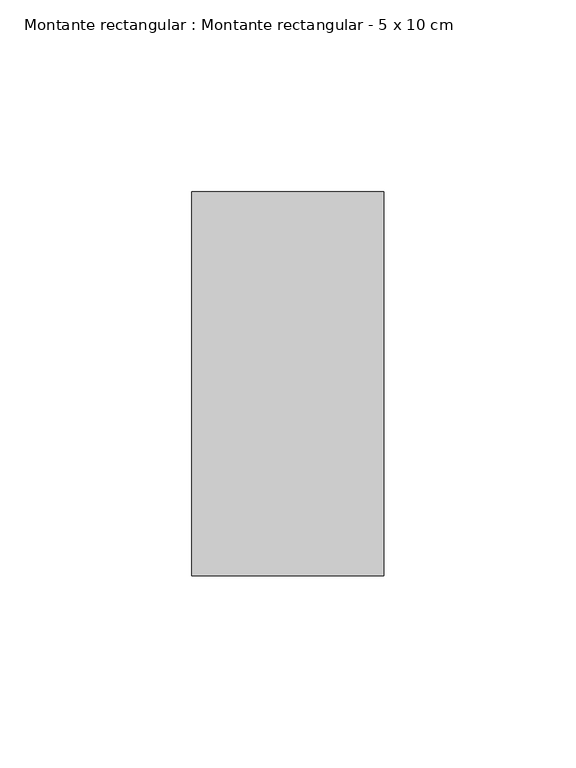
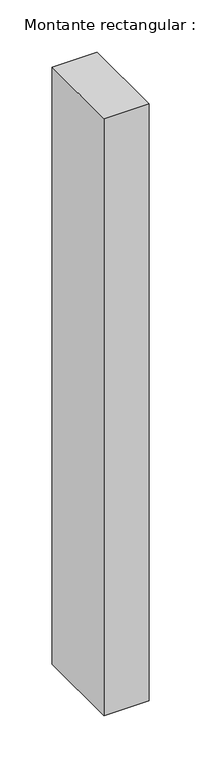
"""IFC4 building model written with IfcOpenShell, lengths in millimetres: member geometry, Montante rectangular : Montante rectangular - 5 x 10 cm."""

import ifcopenshell
import ifcopenshell.guid

model = None  # the IFC model being written
_history = None  # IfcOwnerHistory: only IFC2X3 demands one
_inside = {}  # id of a spatial element -> (the spatial element, [elements in it])
_under = {}  # id of a project, library or spatial element -> (it, [spatial elements below it])
_declared = {}  # id of a project -> (the project, [libraries it declares])
_typed = {}  # id of a type object -> (the type object, [elements of that type])
_made_of = {}  # id of a material, layer set ... -> (it, [elements and type objects made of it])


def new_model(schema):
    """Start an empty IFC model of exactly this schema.

    Asked for "IFC4X3", IfcOpenShell would pick the latest addendum, in which some entities
    have other attributes; the version numbers below select the first issue.
    IFC2X3 requires an IfcOwnerHistory on every rooted entity: one is made here for all.
    """
    global model, _history
    if schema == "IFC4X3":
        model = ifcopenshell.file(schema_version=(4, 3, 0, 0))
    else:
        model = ifcopenshell.file(schema=schema)
    _inside.clear()
    _under.clear()
    _declared.clear()
    _typed.clear()
    _made_of.clear()
    _history = None
    if model.schema == "IFC2X3":
        org = make("IfcOrganization", Name="unknown")
        user = make(
            "IfcPersonAndOrganization",
            ThePerson=make("IfcPerson", FamilyName="unknown"),
            TheOrganization=org,
        )
        app = make(
            "IfcApplication",
            ApplicationDeveloper=org,
            Version="unknown",
            ApplicationFullName="unknown",
            ApplicationIdentifier="unknown",
        )
        _history = make(
            "IfcOwnerHistory",
            OwningUser=user,
            OwningApplication=app,
            ChangeAction="ADDED",
            CreationDate=0,
        )
    return model


def make(cls, **values):
    """One entity of the class cls with the attributes given. An attribute that is None is left unset."""
    return model.create_entity(
        cls, **{name: value for name, value in values.items() if value is not None}
    )


def rooted(cls, **values):
    """An entity with a GlobalId (a new one), such as an element, a storey or a relation."""
    return make(cls, GlobalId=ifcopenshell.guid.new(), OwnerHistory=_history, **values)


def si_unit(unit_type, name, prefix=None):
    """IfcSIUnit, for example si_unit("LENGTHUNIT", "METRE", prefix="MILLI")."""
    return make("IfcSIUnit", UnitType=unit_type, Prefix=prefix, Name=name)


def assignment(units):
    """IfcUnitAssignment: the units of a project."""
    return None if units is None else make("IfcUnitAssignment", Units=units)


def point(xyz):
    """IfcCartesianPoint."""
    return None if xyz is None else make("IfcCartesianPoint", Coordinates=xyz)


def direction(xyz):
    """IfcDirection."""
    return None if xyz is None else make("IfcDirection", DirectionRatios=xyz)


def frame(location, z_axis=None, x_axis=None):
    """IfcAxis2Placement3D, a coordinate frame: its origin and axes. An axis left out is left unset."""
    return make(
        "IfcAxis2Placement3D",
        Location=point(location),
        Axis=direction(z_axis),
        RefDirection=direction(x_axis),
    )


def origin():
    """The frame at (0, 0, 0) with its axes left unset."""
    return frame((0.0, 0.0, 0.0))


def place(relative_to, where):
    """IfcLocalPlacement: puts the frame where relative to a parent placement (None: the world)."""
    return make(
        "IfcLocalPlacement", PlacementRelTo=relative_to, RelativePlacement=where
    )


def context(
    kind, dimensions, precision=None, world=None, true_north=None, identifier=None
):
    """IfcGeometricRepresentationContext, for example the 3D "Model" context."""
    return make(
        "IfcGeometricRepresentationContext",
        ContextIdentifier=identifier,
        ContextType=kind,
        CoordinateSpaceDimension=dimensions,
        Precision=precision,
        WorldCoordinateSystem=world,
        TrueNorth=true_north,
    )


def project(units=None, contexts=None):
    """IfcProject with its units and contexts."""
    return rooted(
        "IfcProject",
        Name="project",
        RepresentationContexts=contexts,
        UnitsInContext=assignment(units),
    )


def spatial(cls, under=None, at=None, **own):
    """A site, building, storey or space (cls), placed at a placement, below another one or the project."""
    s = rooted(cls, ObjectPlacement=at, **own)
    if under is not None:
        _under.setdefault(under.id(), (under, []))[1].append(s)
    return s


def polyline(points):
    """IfcPolyline through the points."""
    return make("IfcPolyline", Points=[point(p) for p in points])


def outline(outer, holes=None, kind="AREA"):
    """IfcArbitraryClosedProfileDef: a profile drawn as a closed curve; with holes, ...WithVoids."""
    if holes is None:
        return make("IfcArbitraryClosedProfileDef", ProfileType=kind, OuterCurve=outer)
    return make(
        "IfcArbitraryProfileDefWithVoids",
        ProfileType=kind,
        OuterCurve=outer,
        InnerCurves=holes,
    )


def extrude(swept, where, along, depth):
    """IfcExtrudedAreaSolid: the profile swept, set in the frame where, extruded along a direction by depth."""
    return make(
        "IfcExtrudedAreaSolid",
        SweptArea=swept,
        Position=where,
        ExtrudedDirection=direction(along),
        Depth=depth,
    )


def shape(context_of_items, identifier, shape_type, items):
    """IfcShapeRepresentation: the items that make up one representation, for example the "Body"."""
    return make(
        "IfcShapeRepresentation",
        ContextOfItems=context_of_items,
        RepresentationIdentifier=identifier,
        RepresentationType=shape_type,
        Items=items,
    )


def source(mapping_origin, context_of_items, identifier, shape_type, items):
    """IfcRepresentationMap: a shape defined once, which mapped items show again and again."""
    return make(
        "IfcRepresentationMap",
        MappingOrigin=mapping_origin,
        MappedRepresentation=shape(context_of_items, identifier, shape_type, items),
    )


def transform(
    local_origin,
    x_axis=None,
    y_axis=None,
    z_axis=None,
    scale=None,
    scale2=None,
    scale3=None,
    uniform=True,
):
    """IfcCartesianTransformationOperator3D, or its non-uniform kind. x_axis, y_axis, z_axis: its Axis1, 2, 3."""
    if uniform:
        return make(
            "IfcCartesianTransformationOperator3D",
            Axis1=direction(x_axis),
            Axis2=direction(y_axis),
            LocalOrigin=point(local_origin),
            Scale=scale,
            Axis3=direction(z_axis),
        )
    return make(
        "IfcCartesianTransformationOperator3DnonUniform",
        Axis1=direction(x_axis),
        Axis2=direction(y_axis),
        LocalOrigin=point(local_origin),
        Scale=scale,
        Axis3=direction(z_axis),
        Scale2=scale2,
        Scale3=scale3,
    )


def mapped(mapping_source, mapping_target):
    """IfcMappedItem: shows the shape of a source again, moved by a transform."""
    return make(
        "IfcMappedItem", MappingSource=mapping_source, MappingTarget=mapping_target
    )


def made_of(thing, what):
    """Note that an element or type object is made of a material, layer set ...; save() writes the relation."""
    if what is not None:
        _made_of.setdefault(what.id(), (what, []))[1].append(thing)
    return thing


def element(
    cls,
    number,
    at=None,
    inside=None,
    cuts=None,
    type_object=None,
    material=None,
    context=None,
    identifier="Body",
    shape_type=None,
    held_by="IfcProductDefinitionShape",
    body=None,
    shapes=None,
    **own,
):
    """One element of the class cls, such as IfcWall. Its Tag is "e" and its number.

    at: its placement. inside: the storey or other place that contains it. cuts: it is an
    opening in that element (IfcRelVoidsElement). A single representation is given by context,
    identifier, shape_type and body (its items); several are given by shapes. held_by: the class
    of the entity that holds the representations. save() writes the other relations.
    """
    e = rooted(cls, Tag="e%d" % number, ObjectPlacement=at, **own)
    if body is not None:
        shapes = [shape(context, identifier, shape_type, body)]
    if shapes is not None:
        e.Representation = make(held_by, Representations=shapes)
    if inside is not None:
        _inside.setdefault(inside.id(), (inside, []))[1].append(e)
    if cuts is not None:
        rooted(
            "IfcRelVoidsElement", RelatingBuildingElement=cuts, RelatedOpeningElement=e
        )
    if type_object is not None:
        _typed.setdefault(type_object.id(), (type_object, []))[1].append(e)
    return made_of(e, material)


def aggregate(whole, parts):
    """IfcRelAggregates: a whole, such as a stair, and the parts it consists of."""
    return rooted("IfcRelAggregates", RelatingObject=whole, RelatedObjects=parts)


def save(model, path):
    """Write the relations noted so far, then the file.

    IfcRelAggregates (storeys below a building ...), IfcRelContainedInSpatialStructure (elements
    in a storey), IfcRelDefinesByType, IfcRelAssociatesMaterial and IfcRelDeclares: one each for
    every whole, place, type object, material and project.
    """
    for whole, parts in _under.values():
        aggregate(whole, parts)
    for where, things in _inside.values():
        rooted(
            "IfcRelContainedInSpatialStructure",
            RelatedElements=things,
            RelatingStructure=where,
        )
    for kind, things in _typed.values():
        rooted("IfcRelDefinesByType", RelatedObjects=things, RelatingType=kind)
    for what, things in _made_of.values():
        rooted("IfcRelAssociatesMaterial", RelatedObjects=things, RelatingMaterial=what)
    for by, libraries in _declared.values():
        rooted("IfcRelDeclares", RelatingContext=by, RelatedDefinitions=libraries)
    model.write(path)


def montante_rectangular_montante_rectangular_5_x_10_cm_a9b3deda(model_context):
    return source(origin(), model_context, "Body", "SweptSolid", [
        extrude(outline(polyline([(25.0, 50.0), (25.0, -50.0), (-25.0, -50.0), (-25.0, 50.0), (25.0, 50.0)])), frame((0.0, 0.0, -700.0), z_axis=(0.0, 0.0, 1.0), x_axis=(1.0, 0.0, 0.0)), (0.0, 0.0, 1.0), 700.0),
    ])


if __name__ == "__main__":
    model = new_model("IFC4")
    model_context = context("Model", 3, world=origin())
    ifc_project = project(units=[si_unit("LENGTHUNIT", "METRE", prefix="MILLI")], contexts=[model_context])
    site = spatial("IfcSite", under=ifc_project)
    building = spatial("IfcBuilding", under=site)
    placement = place(None, origin())
    montante_rectangular_montante_rectangular_5_x_10_cm_shape = montante_rectangular_montante_rectangular_5_x_10_cm_a9b3deda(model_context)
    element("IfcMember", 1, ObjectType="Montante rectangular : Montante rectangular - 5 x 10 cm", at=placement, inside=building, context=model_context, shape_type="MappedRepresentation", body=[
        mapped(montante_rectangular_montante_rectangular_5_x_10_cm_shape, transform((0.0, 0.0, 0.0), x_axis=(1.0, 0.0, 0.0), y_axis=(0.0, 1.0, 0.0), z_axis=(0.0, 0.0, 1.0))),
    ])
    save(model, "model.ifc")
